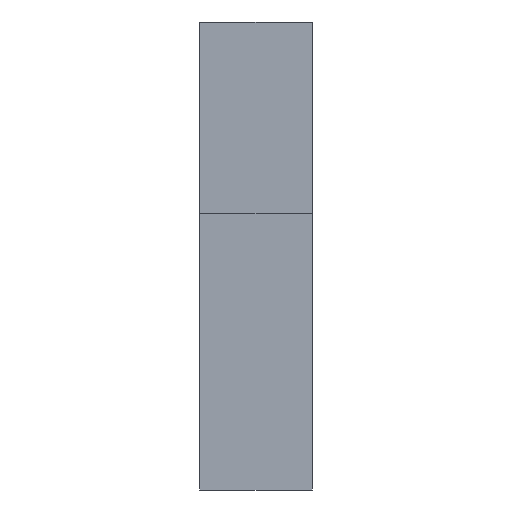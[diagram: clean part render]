
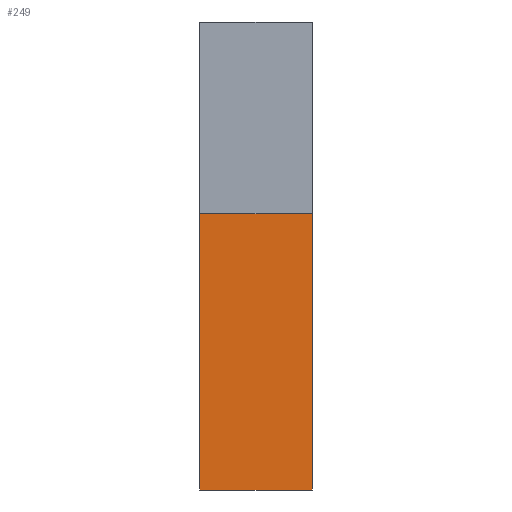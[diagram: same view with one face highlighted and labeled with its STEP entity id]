
A CAD part, front view. The second image highlights one B-rep face of the part: STEP entity #249.
In plain terms, the highlighted planar face has unit normal (0, -1, 0).
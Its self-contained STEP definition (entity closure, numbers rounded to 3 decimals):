
#21 = EDGE_CURVE('',#22,#24,#26,.T.);
#22 = VERTEX_POINT('',#23);
#23 = CARTESIAN_POINT('',(-35.2,-46.,7.));
#24 = VERTEX_POINT('',#25);
#25 = CARTESIAN_POINT('',(-35.2,-46.,11.9));
#26 = SURFACE_CURVE('',#27,(#31,#43),.PCURVE_S1.);
#27 = LINE('',#28,#29);
#28 = CARTESIAN_POINT('',(-35.2,-46.,7.));
#29 = VECTOR('',#30,1.);
#30 = DIRECTION('',(0.,0.,1.));
#31 = PCURVE('',#32,#37);
#32 = PLANE('',#33);
#33 = AXIS2_PLACEMENT_3D('',#34,#35,#36);
#34 = CARTESIAN_POINT('',(-35.2,-46.,7.));
#35 = DIRECTION('',(1.,0.,0.));
#36 = DIRECTION('',(0.,0.,1.));
#37 = DEFINITIONAL_REPRESENTATION('',(#38),#42);
#38 = LINE('',#39,#40);
#39 = CARTESIAN_POINT('',(0.,0.));
#40 = VECTOR('',#41,1.);
#41 = DIRECTION('',(1.,0.));
#42 = ( GEOMETRIC_REPRESENTATION_CONTEXT(2) 
PARAMETRIC_REPRESENTATION_CONTEXT() REPRESENTATION_CONTEXT('2D SPACE',''
  ) );
#43 = PCURVE('',#44,#49);
#44 = PLANE('',#45);
#45 = AXIS2_PLACEMENT_3D('',#46,#47,#48);
#46 = CARTESIAN_POINT('',(-35.2,-46.,7.));
#47 = DIRECTION('',(0.,1.,0.));
#48 = DIRECTION('',(0.,-0.,1.));
#49 = DEFINITIONAL_REPRESENTATION('',(#50),#54);
#50 = LINE('',#51,#52);
#51 = CARTESIAN_POINT('',(0.,0.));
#52 = VECTOR('',#53,1.);
#53 = DIRECTION('',(1.,0.));
#54 = ( GEOMETRIC_REPRESENTATION_CONTEXT(2) 
PARAMETRIC_REPRESENTATION_CONTEXT() REPRESENTATION_CONTEXT('2D SPACE',''
  ) );
#72 = PLANE('',#73);
#73 = AXIS2_PLACEMENT_3D('',#74,#75,#76);
#74 = CARTESIAN_POINT('',(-35.2,-46.,7.));
#75 = DIRECTION('',(0.,0.,1.));
#76 = DIRECTION('',(1.,0.,-0.));
#238 = PLANE('',#239);
#239 = AXIS2_PLACEMENT_3D('',#240,#241,#242);
#240 = CARTESIAN_POINT('',(-35.2,-46.,11.9));
#241 = DIRECTION('',(0.,0.,1.));
#242 = DIRECTION('',(1.,0.,-0.));
#249 = ADVANCED_FACE('',(#250),#44,.F.);
#250 = FACE_BOUND('',#251,.F.);
#251 = EDGE_LOOP('',(#252,#282,#303,#304));
#252 = ORIENTED_EDGE('',*,*,#253,.F.);
#253 = EDGE_CURVE('',#254,#256,#258,.T.);
#254 = VERTEX_POINT('',#255);
#255 = CARTESIAN_POINT('',(-33.2,-46.,7.));
#256 = VERTEX_POINT('',#257);
#257 = CARTESIAN_POINT('',(-33.2,-46.,11.9));
#258 = SURFACE_CURVE('',#259,(#263,#270),.PCURVE_S1.);
#259 = LINE('',#260,#261);
#260 = CARTESIAN_POINT('',(-33.2,-46.,7.));
#261 = VECTOR('',#262,1.);
#262 = DIRECTION('',(0.,0.,1.));
#263 = PCURVE('',#44,#264);
#264 = DEFINITIONAL_REPRESENTATION('',(#265),#269);
#265 = LINE('',#266,#267);
#266 = CARTESIAN_POINT('',(0.,2.));
#267 = VECTOR('',#268,1.);
#268 = DIRECTION('',(1.,0.));
#269 = ( GEOMETRIC_REPRESENTATION_CONTEXT(2) 
PARAMETRIC_REPRESENTATION_CONTEXT() REPRESENTATION_CONTEXT('2D SPACE',''
  ) );
#270 = PCURVE('',#271,#276);
#271 = PLANE('',#272);
#272 = AXIS2_PLACEMENT_3D('',#273,#274,#275);
#273 = CARTESIAN_POINT('',(-33.2,-46.,7.));
#274 = DIRECTION('',(1.,0.,0.));
#275 = DIRECTION('',(0.,0.,1.));
#276 = DEFINITIONAL_REPRESENTATION('',(#277),#281);
#277 = LINE('',#278,#279);
#278 = CARTESIAN_POINT('',(0.,0.));
#279 = VECTOR('',#280,1.);
#280 = DIRECTION('',(1.,0.));
#281 = ( GEOMETRIC_REPRESENTATION_CONTEXT(2) 
PARAMETRIC_REPRESENTATION_CONTEXT() REPRESENTATION_CONTEXT('2D SPACE',''
  ) );
#282 = ORIENTED_EDGE('',*,*,#283,.F.);
#283 = EDGE_CURVE('',#22,#254,#284,.T.);
#284 = SURFACE_CURVE('',#285,(#289,#296),.PCURVE_S1.);
#285 = LINE('',#286,#287);
#286 = CARTESIAN_POINT('',(-35.2,-46.,7.));
#287 = VECTOR('',#288,1.);
#288 = DIRECTION('',(1.,0.,0.));
#289 = PCURVE('',#44,#290);
#290 = DEFINITIONAL_REPRESENTATION('',(#291),#295);
#291 = LINE('',#292,#293);
#292 = CARTESIAN_POINT('',(0.,0.));
#293 = VECTOR('',#294,1.);
#294 = DIRECTION('',(0.,1.));
#295 = ( GEOMETRIC_REPRESENTATION_CONTEXT(2) 
PARAMETRIC_REPRESENTATION_CONTEXT() REPRESENTATION_CONTEXT('2D SPACE',''
  ) );
#296 = PCURVE('',#72,#297);
#297 = DEFINITIONAL_REPRESENTATION('',(#298),#302);
#298 = LINE('',#299,#300);
#299 = CARTESIAN_POINT('',(0.,0.));
#300 = VECTOR('',#301,1.);
#301 = DIRECTION('',(1.,0.));
#302 = ( GEOMETRIC_REPRESENTATION_CONTEXT(2) 
PARAMETRIC_REPRESENTATION_CONTEXT() REPRESENTATION_CONTEXT('2D SPACE',''
  ) );
#303 = ORIENTED_EDGE('',*,*,#21,.T.);
#304 = ORIENTED_EDGE('',*,*,#305,.T.);
#305 = EDGE_CURVE('',#24,#256,#306,.T.);
#306 = SURFACE_CURVE('',#307,(#311,#318),.PCURVE_S1.);
#307 = LINE('',#308,#309);
#308 = CARTESIAN_POINT('',(-35.2,-46.,11.9));
#309 = VECTOR('',#310,1.);
#310 = DIRECTION('',(1.,0.,0.));
#311 = PCURVE('',#44,#312);
#312 = DEFINITIONAL_REPRESENTATION('',(#313),#317);
#313 = LINE('',#314,#315);
#314 = CARTESIAN_POINT('',(4.9,0.));
#315 = VECTOR('',#316,1.);
#316 = DIRECTION('',(0.,1.));
#317 = ( GEOMETRIC_REPRESENTATION_CONTEXT(2) 
PARAMETRIC_REPRESENTATION_CONTEXT() REPRESENTATION_CONTEXT('2D SPACE',''
  ) );
#318 = PCURVE('',#238,#319);
#319 = DEFINITIONAL_REPRESENTATION('',(#320),#324);
#320 = LINE('',#321,#322);
#321 = CARTESIAN_POINT('',(0.,0.));
#322 = VECTOR('',#323,1.);
#323 = DIRECTION('',(1.,0.));
#324 = ( GEOMETRIC_REPRESENTATION_CONTEXT(2) 
PARAMETRIC_REPRESENTATION_CONTEXT() REPRESENTATION_CONTEXT('2D SPACE',''
  ) );
